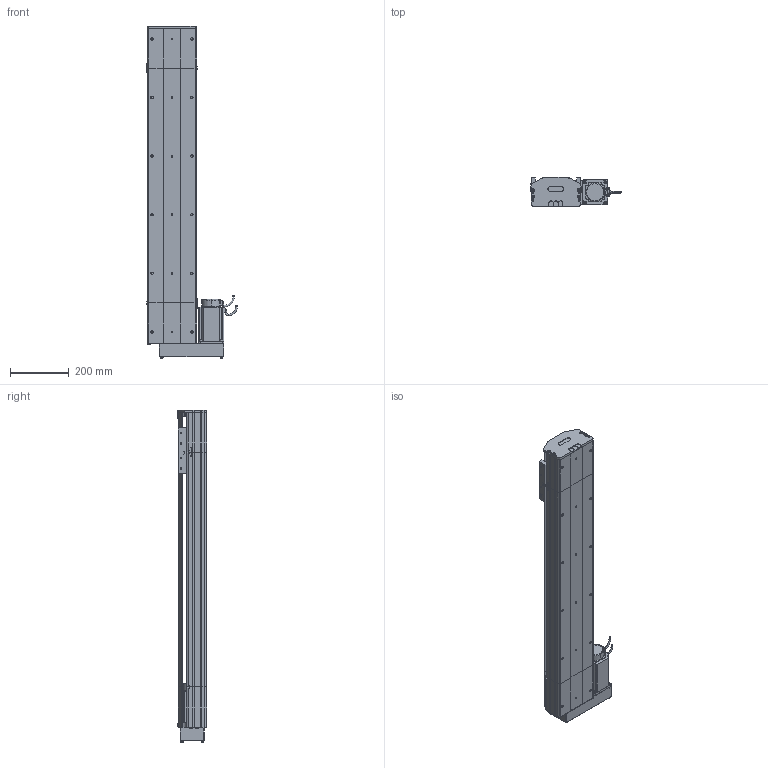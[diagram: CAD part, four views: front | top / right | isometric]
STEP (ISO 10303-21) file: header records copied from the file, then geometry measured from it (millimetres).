
FILE_DESCRIPTION (( 'STEP AP214' ), '1' );
FILE_NAME ('D17 TSH BL S800.STEP', '2010-06-30T06:45:10', ( 'Christophe Gaillard' ), ( 'SGA' ), 'SwSTEP 2.0', 'SolidWorks 2010', '' );
FILE_SCHEMA (( 'AUTOMOTIVE_DESIGN' ));
Length unit declared in the file: millimetre
Products named in the file (33): course 800 D17_Default; D17 TSH BL S800; tete d''axe bas D17; Arbre+rail tail D17; plaque de  bout tail D17_Default; corpl tail D17_Default; arbre + rail D17 Course 800 ; Tail D17_Default; couvercle D17 course L800_Default; corp D17 800_Default; tete d''axe haut D17; vis M5 L12_Default; guide D17; Chariot D17; Vis M5 L16-2_Default; Conecteur_Default; Conecteur2_Default; chariot D17S_Default; Cvis M5 L70_Default; renvoi BL_Default; codeur 90BLDC125-640; corps 90BLDC125A-640; avant 90BLDC125A-640; Moteur motionking 90BLDC125A-640; vis M5 L5_Default; Arbre+rail head D17; plaque de  bout BM head D17_Default; couvercle D17_Default; couvercle D17 head_Default; vis M5 L8 90°_Default; corpl head D17 BM_Default; head BL_Default; vis M5 L25_Default
Assembly tree (55 placements, depth 4):
  D17 TSH BL S800
    course 800 D17_Default
      couvercle D17 course L800_Default
      arbre + rail D17 Course 800 
      corp D17 800_Default
    head BL_Default
      Vis M5 L16-2_Default  x4
      Cvis M5 L70_Default  x2
      vis M5 L12_Default  x8
      vis M5 L5_Default  x2
      couvercle D17 head_Default
      plaque de  bout BM head D17_Default
      Moteur motionking 90BLDC125A-640
        Conecteur_Default
        avant 90BLDC125A-640
        codeur 90BLDC125-640
        corps 90BLDC125A-640
        Conecteur2_Default
      corpl head D17 BM_Default
      Arbre+rail head D17
      renvoi BL_Default
    Tail D17_Default
      Arbre+rail tail D17
      vis M5 L8 90°_Default  x2
      vis M5 L12_Default  x4
      couvercle D17_Default
      plaque de  bout tail D17_Default
      tete d''axe haut D17
      tete d''axe bas D17
      vis M5 L25_Default  x2
      corpl tail D17_Default
    chariot D17S_Default
      guide D17  x2
      vis M5 L12_Default  x4
      Chariot D17
Bounding box: 308.95 x 99.7 x 1132.7 mm (x, y, z)
Volume: 7729915.1 mm3; surface area: 1948535.1 mm2
Topology: 80 solids, 80 shells, 2251 faces, 5655 edges, 3648 vertices
Faces by surface type: plane 1396, cylinder 578, bspline 136, torus 73, cone 64, sphere 4
Entity records: 72709 total; most frequent: CARTESIAN_POINT 22694, ORIENTED_EDGE 8818, DIRECTION 8266, EDGE_CURVE 4409, LINE 3054, VECTOR 3054, VERTEX_POINT 2894, AXIS2_PLACEMENT_3D 2606
